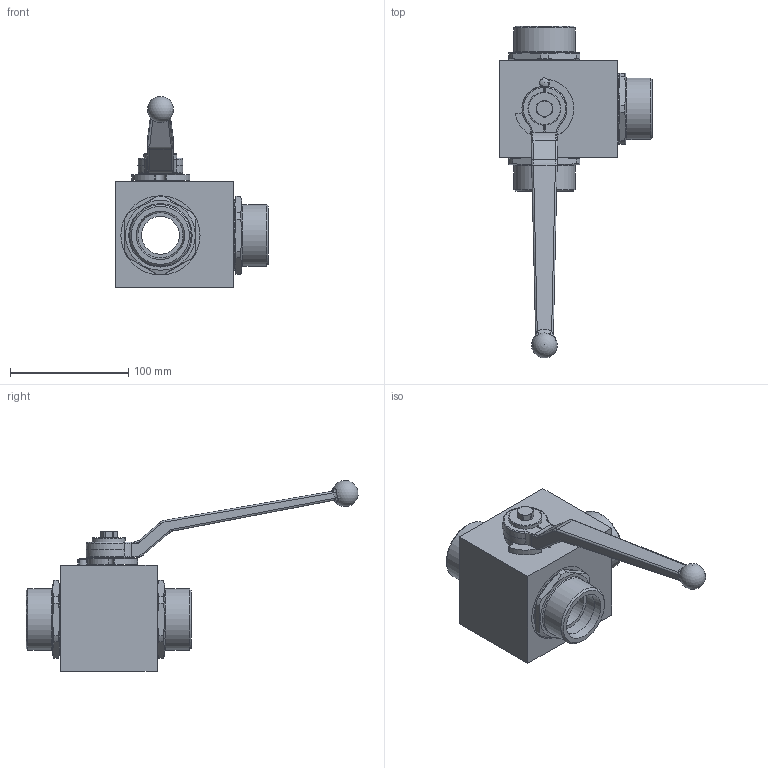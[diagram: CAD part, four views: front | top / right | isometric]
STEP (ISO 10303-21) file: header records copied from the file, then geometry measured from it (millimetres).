
FILE_DESCRIPTION( ( 'Unknown' ), '1' );
FILE_NAME( 'H:/PISTER/3D-MODELLE/BK3-Edelstahl stp/BK3-Edelst DN32 38S.stp', 'Unknown', ( 'Unknown' ), ( 'Unknown' ), 'PSStep 14.0', 'Unknown', ' ' );
FILE_SCHEMA( ( 'AUTOMOTIVE_DESIGN { 1 0 10303 214 1 1 1 1 }' ) );
Length unit declared in the file: millimetre
Products named in the file (11): Assem1; 56-032-140-oa9; 09-17-002; 58-1473-020-oa10; 58-0440-008; 58-0933-262; 04-032-001-oa11; 04-032-001-oa12; 04-032-001-oa13; Griff_SW17_; 01-032-086-oa14
Assembly tree (10 placements, depth 2):
  Assem1
    56-032-140-oa9
    09-17-002
    58-1473-020-oa10
    58-0440-008
    58-0933-262
    04-032-001-oa11
    04-032-001-oa12
    04-032-001-oa13
    Griff_SW17_
    01-032-086-oa14
Bounding box: 129.4 x 280.82 x 161.5 mm (x, y, z)
Volume: 634077.8 mm3; surface area: 134306.5 mm2
Topology: 10 solids, 10 shells, 353 faces, 887 edges, 560 vertices
Faces by surface type: plane 125, cylinder 120, cone 55, torus 32, bspline 18, sphere 3
Full cylindrical faces by diameter (mm): 6.647 x1, 7.98 x1, 8 x1, 9.2 x1, 24 x2, 28 x1, 30 x1, 32 x4, 38.3 x3, 40 x1, 48 x1, 52 x3, 52.3 x1, 53.835 x1, 56 x1, 56.2 x3, 56.35 x3, 60 x4, 67 x3
Entity records: 14924 total; most frequent: CARTESIAN_POINT 4050, DIRECTION 1672, ORIENTED_EDGE 1536, EDGE_CURVE 768, AXIS2_PLACEMENT_3D 696, VERTEX_POINT 528, EDGE_LOOP 464, FACE_OUTER_BOUND 405
